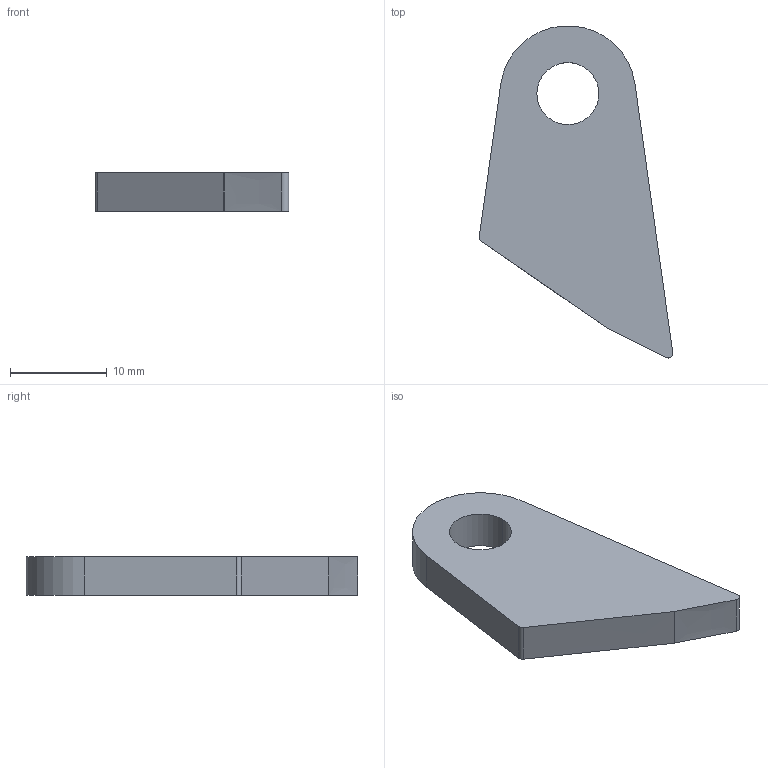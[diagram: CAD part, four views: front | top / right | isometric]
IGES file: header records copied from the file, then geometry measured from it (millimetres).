
Start section: START RECORD GO HERE.
Global section: file name: 20M_FU_FU.igs; native system: IBM CATIA IGES - CATIA Version 5 Release 19 ; preprocessor: CATIA Version 5 Release 19 ; author: alexb; organization: LAPTOP-PR6NE7IP; date: 20191216.211855; units: millimetre
Bounding box: 19.98 x 34.26 x 4 mm (x, y, z)
Surface area: 1260 mm2 (no closed solid volume)
Topology: 0 solids, 0 shells, 12 faces, 62 edges, 64 vertices
Faces by surface type: revolution 6, plane 4, extrusion 2
